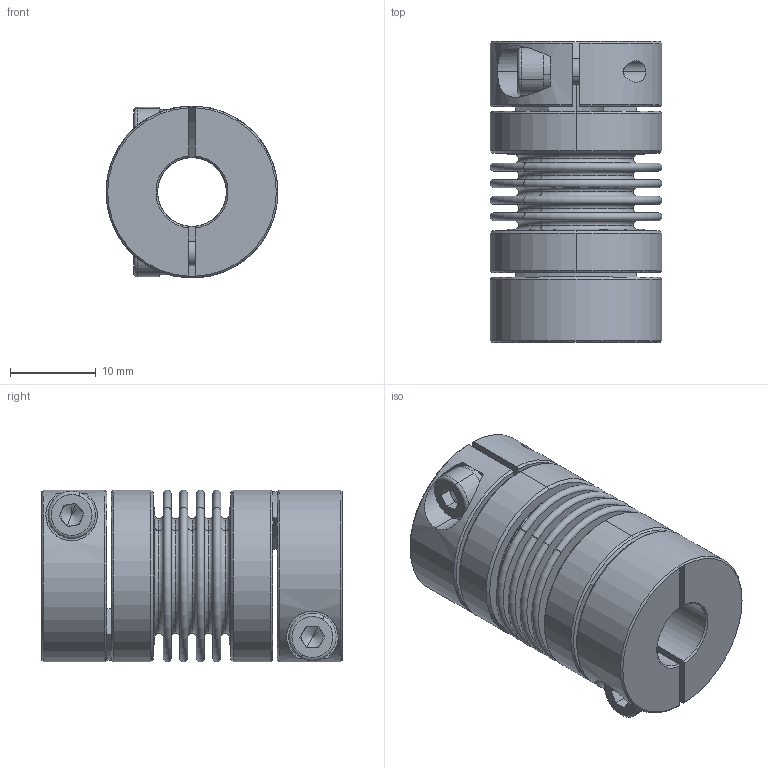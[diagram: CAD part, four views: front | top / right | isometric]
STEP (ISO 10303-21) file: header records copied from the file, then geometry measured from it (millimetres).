
FILE_DESCRIPTION (( 'STEP AP203' ), '1' );
FILE_NAME ('LB-B-D20L34-8-10.STEP', '2021-11-04T01:46:36', ( '' ), ( '' ), 'SwSTEP 2.0', 'SolidWorks 2018', '' );
FILE_SCHEMA (( 'CONFIG_CONTROL_DESIGN' ));
Length unit declared in the file: millimetre
Products named in the file (2): 零件4^LB-B-D20L34 波纹管联轴器-组装体; LB-B-D20L34-8-10
Assembly tree (1 placements, depth 2):
  LB-B-D20L34-8-10
    零件4^LB-B-D20L34 波纹管联轴器-组装体
Bounding box: 20 x 35 x 20 mm (x, y, z)
Volume: 5401.8 mm3; surface area: 9421.6 mm2
Topology: 1 solids, 1 shells, 246 faces, 566 edges, 350 vertices
Faces by surface type: plane 84, torus 68, cylinder 60, cone 34
Entity records: 7446 total; most frequent: CARTESIAN_POINT 1462, DIRECTION 1370, ORIENTED_EDGE 1124, AXIS2_PLACEMENT_3D 602, EDGE_CURVE 562, CIRCLE 352, VERTEX_POINT 350, EDGE_LOOP 288
